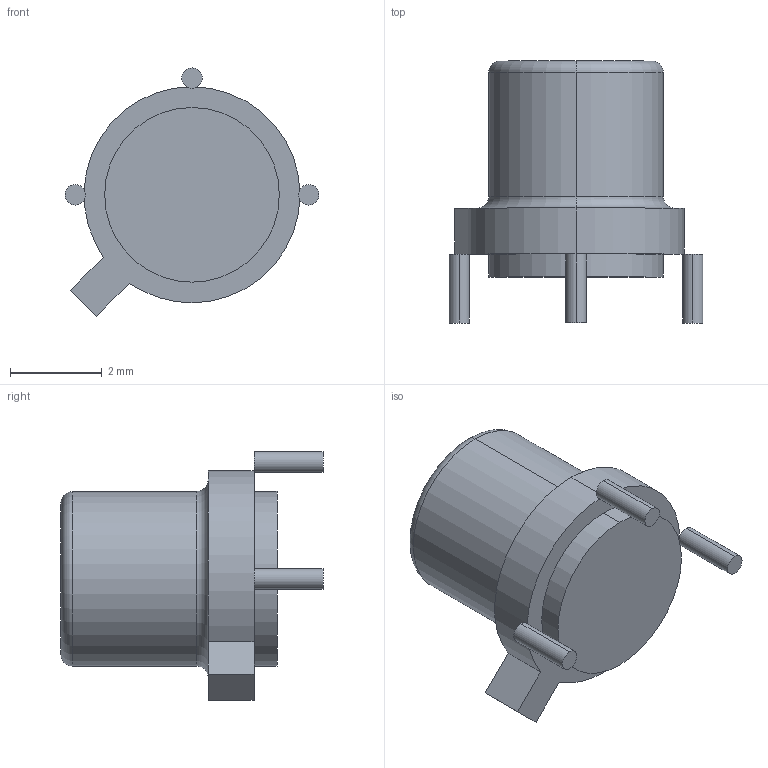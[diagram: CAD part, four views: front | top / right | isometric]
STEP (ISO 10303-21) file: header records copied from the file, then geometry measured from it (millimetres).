
FILE_DESCRIPTION (( 'STEP AP214' ), '1' );
FILE_NAME ( 'TO254P940H470-3P.STEP', '2014-04-11T12:31:23', ( '' ), ( '' ), 'FPX Expert 2013', 'PCB Libraries', '' );
FILE_SCHEMA (( 'AUTOMOTIVE_DESIGN' ));
Length unit declared in the file: millimetre
Products named in the file (1): TO254P940H470-3P
Bounding box: 5.53 x 5.7 x 5.4 mm (x, y, z)
Volume: 60.8 mm3; surface area: 101.9 mm2
Topology: 4 solids, 4 shells, 30 faces, 56 edges, 36 vertices
Faces by surface type: plane 13, cylinder 13, torus 4
Entity records: 908 total; most frequent: DIRECTION 152, CARTESIAN_POINT 123, ORIENTED_EDGE 112, AXIS2_PLACEMENT_3D 65, EDGE_CURVE 56, VERTEX_POINT 36, STYLED_ITEM 35, PRESENTATION_LAYER_ASSIGNMENT 35
